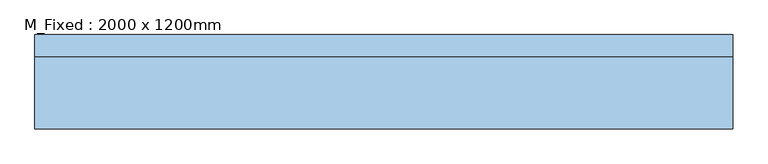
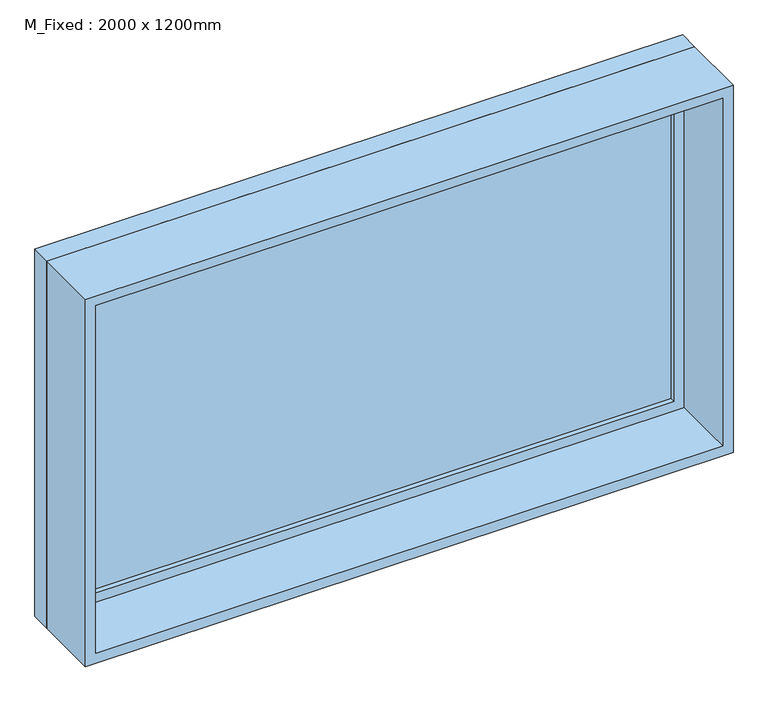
"""IFC4 building model written with IfcOpenShell, lengths in millimetres: window geometry, M_Fixed : 2000 x 1200mm."""

from ifc_helpers import new_model, si_unit, frame, origin, place, context, project, spatial, polyline, outline, extrude, source, transform, mapped, element, save


def m_fixed_2000_x_1200mm_66f1d0cd(model_context):
    return source(origin(), model_context, "Body", "SweptSolid", [
        extrude(outline(polyline([(-937.0, 113.0), (937.0, 113.0), (937.0, 101.0), (-937.0, 101.0), (-937.0, 113.0)])), frame((0.0, 0.0, 978.0), z_axis=(0.0, 0.0, 1.0), x_axis=(1.0, 0.0, 0.0)), (0.0, 0.0, 1.0), 1074.0),
        extrude(outline(polyline([(2096.0, -981.0), (934.0, -981.0), (934.0, 981.0), (2096.0, 981.0), (2096.0, -981.0)]), holes=[polyline([(2052.0, -937.0), (2052.0, 937.0), (978.0, 937.0), (978.0, -937.0), (2052.0, -937.0)])]), frame((0.0, 85.0, 0.0), z_axis=(0.0, 1.0, 0.0), x_axis=(0.0, 0.0, 1.0)), (0.0, 0.0, 1.0), 44.0),
        extrude(outline(polyline([(2115.0, -1000.0), (915.0, -1000.0), (915.0, 1000.0), (2115.0, 1000.0), (2115.0, -1000.0)]), holes=[polyline([(2096.0, -981.0), (2096.0, 981.0), (934.0, 981.0), (934.0, -981.0), (2096.0, -981.0)])]), frame((0.0, 85.0, 0.0), z_axis=(0.0, 1.0, 0.0), x_axis=(0.0, 0.0, 1.0)), (0.0, 0.0, 1.0), 63.0),
        extrude(outline(polyline([(2115.0, -1000.0), (915.0, -1000.0), (915.0, 1000.0), (2115.0, 1000.0), (2115.0, -1000.0)]), holes=[polyline([(2083.0, -968.0), (2083.0, 968.0), (947.0, 968.0), (947.0, -968.0), (2083.0, -968.0)])]), frame((0.0, -122.0, 0.0), z_axis=(0.0, 1.0, 0.0), x_axis=(0.0, 0.0, 1.0)), (0.0, 0.0, 1.0), 207.0),
    ])


if __name__ == "__main__":
    model = new_model("IFC4")
    model_context = context("Model", 3, world=origin())
    ifc_project = project(units=[si_unit("LENGTHUNIT", "METRE", prefix="MILLI")], contexts=[model_context])
    site = spatial("IfcSite", under=ifc_project)
    building = spatial("IfcBuilding", under=site)
    placement = place(None, origin())
    m_fixed_2000_x_1200mm_shape = m_fixed_2000_x_1200mm_66f1d0cd(model_context)
    element("IfcWindow", 1, ObjectType="M_Fixed : 2000 x 1200mm", at=placement, inside=building, context=model_context, shape_type="MappedRepresentation", body=[
        mapped(m_fixed_2000_x_1200mm_shape, transform((0.0, 0.0, 0.0), x_axis=(1.0, 0.0, 0.0), y_axis=(0.0, 1.0, 0.0), z_axis=(0.0, 0.0, 1.0))),
    ])
    save(model, "model.ifc")
